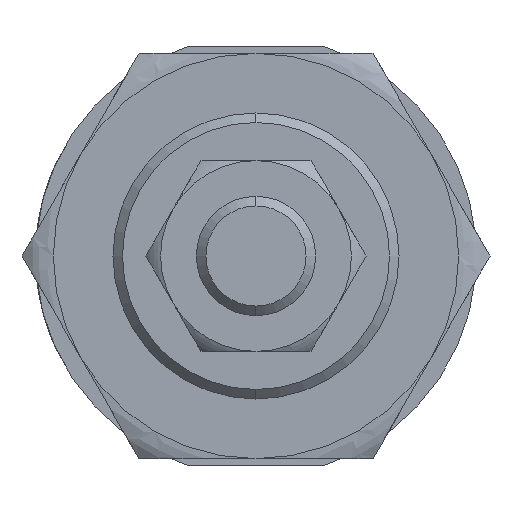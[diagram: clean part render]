
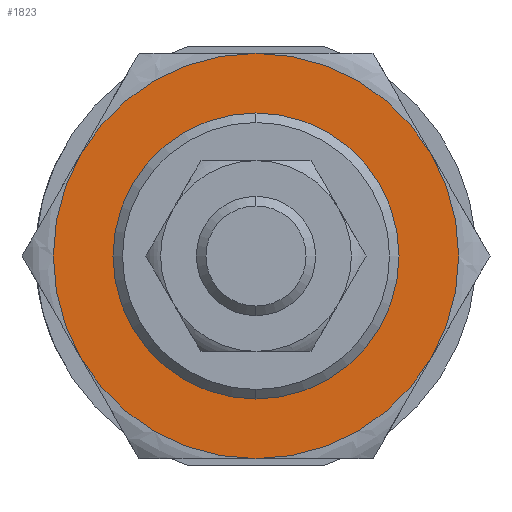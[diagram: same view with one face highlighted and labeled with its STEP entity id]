
A CAD part, left-side view. The second image highlights one B-rep face of the part: STEP entity #1823.
In plain terms, the highlighted planar face has unit normal (-1, 0, 0).
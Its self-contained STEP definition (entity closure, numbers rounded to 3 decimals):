
#14 = ORIENTED_EDGE ( 'NONE', *, *, #236, .T. ) ;
#53 = CIRCLE ( 'NONE', #1371, 8.5 ) ;
#169 = DIRECTION ( 'NONE',  ( -1., 0., 0. ) ) ;
#190 = DIRECTION ( 'NONE',  ( 1., 0., 0. ) ) ;
#199 = VERTEX_POINT ( 'NONE', #210 ) ;
#210 = CARTESIAN_POINT ( 'NONE',  ( -1.5, 0., -8.5 ) ) ;
#236 = EDGE_CURVE ( 'NONE', #2133, #441, #951, .T. ) ;
#241 = ORIENTED_EDGE ( 'NONE', *, *, #2328, .F. ) ;
#361 = CIRCLE ( 'NONE', #1997, 5.25 ) ;
#395 = DIRECTION ( 'NONE',  ( 0., 0., -1. ) ) ;
#423 = CIRCLE ( 'NONE', #2151, 8.5 ) ;
#441 = VERTEX_POINT ( 'NONE', #1758 ) ;
#598 = CARTESIAN_POINT ( 'NONE',  ( -1.5, 0., 0. ) ) ;
#695 = VERTEX_POINT ( 'NONE', #1940 ) ;
#838 = CARTESIAN_POINT ( 'NONE',  ( -1.5, 0., 0. ) ) ;
#866 = CARTESIAN_POINT ( 'NONE',  ( -1.5, 0., 0. ) ) ;
#906 = CIRCLE ( 'NONE', #2323, 8.5 ) ;
#917 = DIRECTION ( 'NONE',  ( 0., 0., -1. ) ) ;
#931 = DIRECTION ( 'NONE',  ( 0., 0., -1. ) ) ;
#942 = CARTESIAN_POINT ( 'NONE',  ( -1.5, 0., 0. ) ) ;
#949 = AXIS2_PLACEMENT_3D ( 'NONE', #974, #2714, #395 ) ;
#951 = CIRCLE ( 'NONE', #1353, 8.5 ) ;
#953 = EDGE_CURVE ( 'NONE', #695, #1577, #3021, .T. ) ;
#974 = CARTESIAN_POINT ( 'NONE',  ( -1.5, 0., 0. ) ) ;
#976 = ORIENTED_EDGE ( 'NONE', *, *, #953, .T. ) ;
#1048 = EDGE_CURVE ( 'NONE', #2551, #441, #423, .T. ) ;
#1126 = DIRECTION ( 'NONE',  ( 1., 0., 0. ) ) ;
#1152 = CARTESIAN_POINT ( 'NONE',  ( -1.5, 7.361, -4.25 ) ) ;
#1168 = DIRECTION ( 'NONE',  ( 1., 0., 0. ) ) ;
#1199 = ORIENTED_EDGE ( 'NONE', *, *, #2780, .F. ) ;
#1207 = EDGE_LOOP ( 'NONE', ( #2135, #241, #1199, #1720, #14, #3054 ) ) ;
#1230 = DIRECTION ( 'NONE',  ( 0., 0., -1. ) ) ;
#1245 = CARTESIAN_POINT ( 'NONE',  ( -1.5, 0., -5.25 ) ) ;
#1339 = CARTESIAN_POINT ( 'NONE',  ( -1.5, 0., 0. ) ) ;
#1353 = AXIS2_PLACEMENT_3D ( 'NONE', #866, #169, #1999 ) ;
#1356 = CARTESIAN_POINT ( 'NONE',  ( -1.5, -7.361, -4.25 ) ) ;
#1366 = AXIS2_PLACEMENT_3D ( 'NONE', #942, #2576, #1870 ) ;
#1371 = AXIS2_PLACEMENT_3D ( 'NONE', #838, #1168, #1970 ) ;
#1556 = EDGE_CURVE ( 'NONE', #199, #2551, #2844, .T. ) ;
#1566 = VERTEX_POINT ( 'NONE', #2928 ) ;
#1577 = VERTEX_POINT ( 'NONE', #1245 ) ;
#1603 = CARTESIAN_POINT ( 'NONE',  ( -1.5, 0., 0. ) ) ;
#1688 = CARTESIAN_POINT ( 'NONE',  ( -1.5, 0., 0. ) ) ;
#1720 = ORIENTED_EDGE ( 'NONE', *, *, #1903, .F. ) ;
#1758 = CARTESIAN_POINT ( 'NONE',  ( -1.5, 7.361, 4.25 ) ) ;
#1823 = ADVANCED_FACE ( 'NONE', ( #1859, #2500 ), #2360, .F. ) ;
#1859 = FACE_BOUND ( 'NONE', #2563, .T. ) ;
#1870 = DIRECTION ( 'NONE',  ( 0., 0., -1. ) ) ;
#1903 = EDGE_CURVE ( 'NONE', #2133, #1566, #53, .T. ) ;
#1940 = CARTESIAN_POINT ( 'NONE',  ( -1.5, 0., 5.25 ) ) ;
#1970 = DIRECTION ( 'NONE',  ( 0., 0., -1. ) ) ;
#1997 = AXIS2_PLACEMENT_3D ( 'NONE', #598, #1126, #2507 ) ;
#1999 = DIRECTION ( 'NONE',  ( 0., 0., 1. ) ) ;
#2005 = DIRECTION ( 'NONE',  ( 1., 0., 0. ) ) ;
#2133 = VERTEX_POINT ( 'NONE', #2202 ) ;
#2135 = ORIENTED_EDGE ( 'NONE', *, *, #1556, .F. ) ;
#2151 = AXIS2_PLACEMENT_3D ( 'NONE', #1688, #2577, #1230 ) ;
#2202 = CARTESIAN_POINT ( 'NONE',  ( -1.5, 0., 8.5 ) ) ;
#2323 = AXIS2_PLACEMENT_3D ( 'NONE', #1603, #2005, #917 ) ;
#2328 = EDGE_CURVE ( 'NONE', #2762, #199, #906, .T. ) ;
#2360 = PLANE ( 'NONE',  #949 ) ;
#2442 = AXIS2_PLACEMENT_3D ( 'NONE', #2672, #190, #931 ) ;
#2500 = FACE_OUTER_BOUND ( 'NONE', #1207, .T. ) ;
#2507 = DIRECTION ( 'NONE',  ( 0., 0., -1. ) ) ;
#2522 = AXIS2_PLACEMENT_3D ( 'NONE', #1339, #2539, #2885 ) ;
#2539 = DIRECTION ( 'NONE',  ( 1., 0., 0. ) ) ;
#2551 = VERTEX_POINT ( 'NONE', #1152 ) ;
#2563 = EDGE_LOOP ( 'NONE', ( #2671, #976 ) ) ;
#2576 = DIRECTION ( 'NONE',  ( 1., 0., 0. ) ) ;
#2577 = DIRECTION ( 'NONE',  ( 1., 0., 0. ) ) ;
#2671 = ORIENTED_EDGE ( 'NONE', *, *, #2784, .T. ) ;
#2672 = CARTESIAN_POINT ( 'NONE',  ( -1.5, 0., 0. ) ) ;
#2694 = CIRCLE ( 'NONE', #2442, 8.5 ) ;
#2714 = DIRECTION ( 'NONE',  ( 1., 0., 0. ) ) ;
#2762 = VERTEX_POINT ( 'NONE', #1356 ) ;
#2780 = EDGE_CURVE ( 'NONE', #1566, #2762, #2694, .T. ) ;
#2784 = EDGE_CURVE ( 'NONE', #1577, #695, #361, .T. ) ;
#2844 = CIRCLE ( 'NONE', #2522, 8.5 ) ;
#2885 = DIRECTION ( 'NONE',  ( 0., 0., -1. ) ) ;
#2928 = CARTESIAN_POINT ( 'NONE',  ( -1.5, -7.361, 4.25 ) ) ;
#3021 = CIRCLE ( 'NONE', #1366, 5.25 ) ;
#3054 = ORIENTED_EDGE ( 'NONE', *, *, #1048, .F. ) ;
